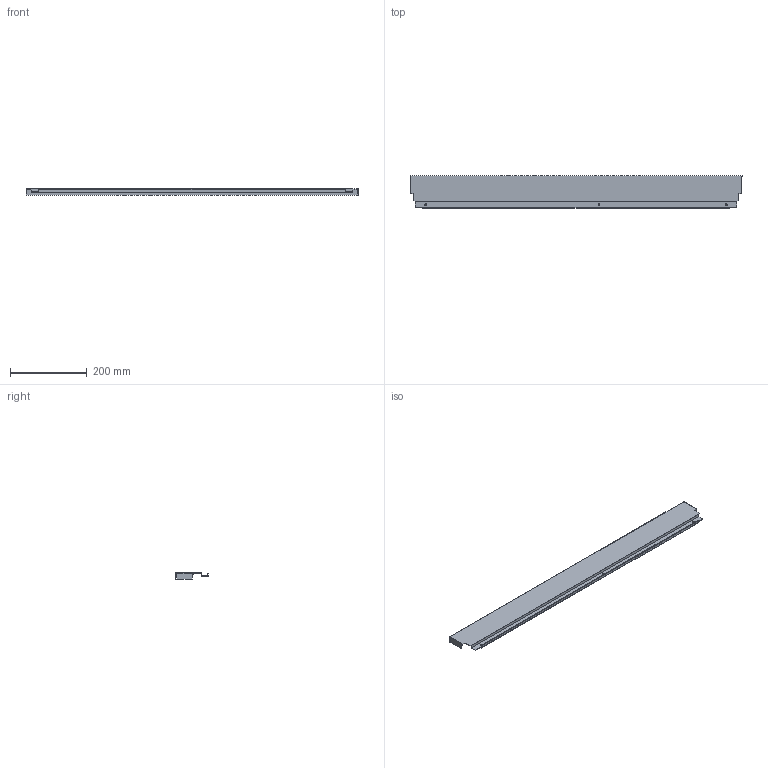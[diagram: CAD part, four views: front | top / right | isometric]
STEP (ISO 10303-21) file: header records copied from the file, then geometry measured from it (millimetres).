
FILE_DESCRIPTION (( 'STEP AP214' ), '1' );
FILE_NAME ('_DWD_XP Stahlrückwand_H86_KAB950_S18.step', '2010-07-08T12:10:26', ( 'grass' ), ( '' ), 'SwSTEP 2.0', 'SolidWorks 2010', '' );
FILE_SCHEMA (( 'AUTOMOTIVE_DESIGN' ));
Length unit declared in the file: millimetre
Products named in the file (1): _DWD_XP Stahlrückwand_H86_KAB950_S18
Bounding box: 865 x 85.79 x 16 mm (x, y, z)
Volume: 92759.3 mm3; surface area: 201281.7 mm2
Topology: 1 solids, 1 shells, 50 faces, 144 edges, 96 vertices
Faces by surface type: plane 44, cylinder 6
Entity records: 1666 total; most frequent: CARTESIAN_POINT 291, ORIENTED_EDGE 288, DIRECTION 258, EDGE_CURVE 144, LINE 132, VECTOR 132, VERTEX_POINT 96, AXIS2_PLACEMENT_3D 63
